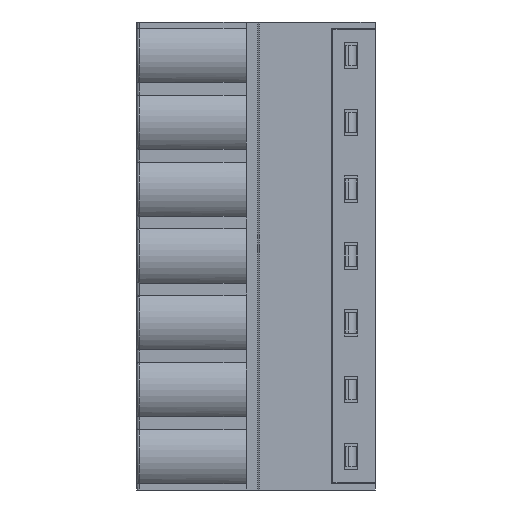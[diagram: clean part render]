
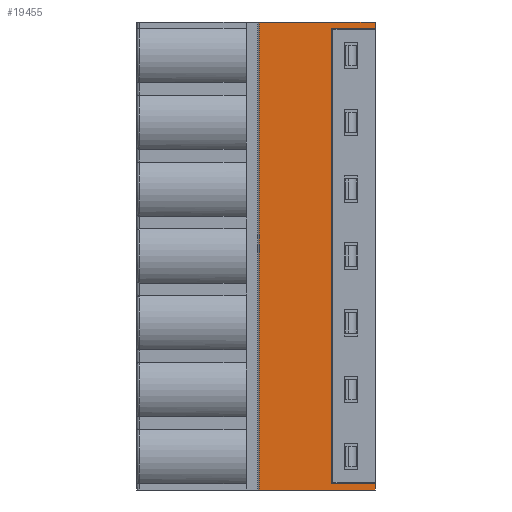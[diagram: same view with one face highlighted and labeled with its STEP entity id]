
A CAD part, left-side view. The second image highlights one B-rep face of the part: STEP entity #19455.
In plain terms, the highlighted planar face has unit normal (-1, 0, 0).
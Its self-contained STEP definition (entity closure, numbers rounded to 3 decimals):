
#79 = CARTESIAN_POINT ( 'NONE',  ( -3.9, 1.933, 0.49 ) ) ;
#174 = CARTESIAN_POINT ( 'NONE',  ( -3.9, 0., 0.49 ) ) ;
#1300 = CARTESIAN_POINT ( 'NONE',  ( -3.9, 3.3, 35.068 ) ) ;
#1428 = ORIENTED_EDGE ( 'NONE', *, *, #29188, .F. ) ;
#1565 = CARTESIAN_POINT ( 'NONE',  ( -3.9, 3.033, 35.069 ) ) ;
#1593 = ORIENTED_EDGE ( 'NONE', *, *, #16277, .F. ) ;
#1790 = EDGE_CURVE ( 'NONE', #28515, #4990, #26860, .T. ) ;
#1985 = CARTESIAN_POINT ( 'NONE',  ( -3.9, 8.8, 35.56 ) ) ;
#2331 = CARTESIAN_POINT ( 'NONE',  ( -3.9, 0.967, 0.49 ) ) ;
#2399 = CARTESIAN_POINT ( 'NONE',  ( -3.9, 0., 35.56 ) ) ;
#2615 = ORIENTED_EDGE ( 'NONE', *, *, #24348, .T. ) ;
#2870 = VECTOR ( 'NONE', #11113, 1000. ) ;
#3301 = CARTESIAN_POINT ( 'NONE',  ( -3.9, 3.3, 0.492 ) ) ;
#3585 = CARTESIAN_POINT ( 'NONE',  ( -3.9, 8.8, 0. ) ) ;
#4087 = LINE ( 'NONE', #8590, #22920 ) ;
#4179 = CARTESIAN_POINT ( 'NONE',  ( -3.9, 0., 35.07 ) ) ;
#4956 = LINE ( 'NONE', #174, #9394 ) ;
#4990 = VERTEX_POINT ( 'NONE', #3585 ) ;
#5104 = VECTOR ( 'NONE', #6483, 1000. ) ;
#5970 = CARTESIAN_POINT ( 'NONE',  ( -3.9, 8.8, 35.56 ) ) ;
#6083 = LINE ( 'NONE', #1300, #15610 ) ;
#6483 = DIRECTION ( 'NONE',  ( 0., 0., -1. ) ) ;
#6509 = CARTESIAN_POINT ( 'NONE',  ( -3.9, 2.9, 0.49 ) ) ;
#6610 = LINE ( 'NONE', #1985, #2870 ) ;
#7576 = LINE ( 'NONE', #19103, #16395 ) ;
#7876 = ORIENTED_EDGE ( 'NONE', *, *, #19275, .T. ) ;
#7894 = PLANE ( 'NONE',  #17761 ) ;
#8083 = VERTEX_POINT ( 'NONE', #8759 ) ;
#8208 = CARTESIAN_POINT ( 'NONE',  ( -3.9, 0., 35.07 ) ) ;
#8338 = B_SPLINE_CURVE_WITH_KNOTS ( 'NONE', 3,
 ( #28465, #23826, #12462, #23533 ),
 .UNSPECIFIED., .F., .F.,
 ( 4, 4 ),
 ( 0., 1. ),
 .UNSPECIFIED. ) ;
#8590 = CARTESIAN_POINT ( 'NONE',  ( -3.9, 8.8, 0. ) ) ;
#8759 = CARTESIAN_POINT ( 'NONE',  ( -3.9, 3.3, 35.068 ) ) ;
#9027 = VERTEX_POINT ( 'NONE', #2399 ) ;
#9359 = EDGE_CURVE ( 'NONE', #17878, #22551, #9968, .T. ) ;
#9394 = VECTOR ( 'NONE', #20972, 1000. ) ;
#9968 = B_SPLINE_CURVE_WITH_KNOTS ( 'NONE', 3,
 ( #6509, #79, #2331, #18183 ),
 .UNSPECIFIED., .F., .F.,
 ( 4, 4 ),
 ( 0., 1. ),
 .UNSPECIFIED. ) ;
#10625 = CARTESIAN_POINT ( 'NONE',  ( -3.9, 0.967, 35.07 ) ) ;
#10935 = EDGE_LOOP ( 'NONE', ( #2615, #11736, #16854, #1428, #1593, #27357, #7876, #11159, #28864, #12379 ) ) ;
#11113 = DIRECTION ( 'NONE',  ( 0., -1., 0. ) ) ;
#11134 = DIRECTION ( 'NONE',  ( 0., -1., 0. ) ) ;
#11159 = ORIENTED_EDGE ( 'NONE', *, *, #21045, .F. ) ;
#11736 = ORIENTED_EDGE ( 'NONE', *, *, #18445, .F. ) ;
#11872 = VERTEX_POINT ( 'NONE', #8208 ) ;
#12379 = ORIENTED_EDGE ( 'NONE', *, *, #1790, .T. ) ;
#12462 = CARTESIAN_POINT ( 'NONE',  ( -3.9, 3.033, 0.491 ) ) ;
#12679 = FACE_OUTER_BOUND ( 'NONE', #10935, .T. ) ;
#12982 = CARTESIAN_POINT ( 'NONE',  ( -3.9, 2.9, 35.07 ) ) ;
#13953 = EDGE_CURVE ( 'NONE', #8083, #19577, #24834, .T. ) ;
#14862 = CARTESIAN_POINT ( 'NONE',  ( -3.9, 0., 0.49 ) ) ;
#15405 = CARTESIAN_POINT ( 'NONE',  ( -3.9, 1.933, 35.07 ) ) ;
#15610 = VECTOR ( 'NONE', #20001, 1000. ) ;
#16277 = EDGE_CURVE ( 'NONE', #8083, #29593, #6083, .T. ) ;
#16395 = VECTOR ( 'NONE', #23877, 1000. ) ;
#16854 = ORIENTED_EDGE ( 'NONE', *, *, #9359, .F. ) ;
#17761 = AXIS2_PLACEMENT_3D ( 'NONE', #24051, #26313, #23468 ) ;
#17860 = CARTESIAN_POINT ( 'NONE',  ( -3.9, 8.8, 35.56 ) ) ;
#17878 = VERTEX_POINT ( 'NONE', #19819 ) ;
#18183 = CARTESIAN_POINT ( 'NONE',  ( -3.9, 0., 0.49 ) ) ;
#18389 = B_SPLINE_CURVE_WITH_KNOTS ( 'NONE', 3,
 ( #26796, #15405, #10625, #4179 ),
 .UNSPECIFIED., .F., .F.,
 ( 4, 4 ),
 ( 0., 1. ),
 .UNSPECIFIED. ) ;
#18445 = EDGE_CURVE ( 'NONE', #22551, #29546, #4956, .T. ) ;
#19103 = CARTESIAN_POINT ( 'NONE',  ( -3.9, 0., 35.56 ) ) ;
#19275 = EDGE_CURVE ( 'NONE', #19577, #11872, #18389, .T. ) ;
#19455 = ADVANCED_FACE ( 'NONE', ( #12679 ), #7894, .T. ) ;
#19577 = VERTEX_POINT ( 'NONE', #12982 ) ;
#19819 = CARTESIAN_POINT ( 'NONE',  ( -3.9, 2.9, 0.49 ) ) ;
#19964 = CARTESIAN_POINT ( 'NONE',  ( -3.9, 3.3, 35.068 ) ) ;
#20001 = DIRECTION ( 'NONE',  ( 0., 0., -1. ) ) ;
#20407 = CARTESIAN_POINT ( 'NONE',  ( -3.9, 2.9, 35.07 ) ) ;
#20519 = CARTESIAN_POINT ( 'NONE',  ( -3.9, 0., 0. ) ) ;
#20972 = DIRECTION ( 'NONE',  ( 0., 0., -1. ) ) ;
#21045 = EDGE_CURVE ( 'NONE', #9027, #11872, #7576, .T. ) ;
#22551 = VERTEX_POINT ( 'NONE', #14862 ) ;
#22920 = VECTOR ( 'NONE', #11134, 1000. ) ;
#23468 = DIRECTION ( 'NONE',  ( 0., 0., 1. ) ) ;
#23533 = CARTESIAN_POINT ( 'NONE',  ( -3.9, 2.9, 0.49 ) ) ;
#23826 = CARTESIAN_POINT ( 'NONE',  ( -3.9, 3.167, 0.492 ) ) ;
#23877 = DIRECTION ( 'NONE',  ( 0., 0., -1. ) ) ;
#24051 = CARTESIAN_POINT ( 'NONE',  ( -3.9, 8.9, 0. ) ) ;
#24348 = EDGE_CURVE ( 'NONE', #4990, #29546, #4087, .T. ) ;
#24834 = B_SPLINE_CURVE_WITH_KNOTS ( 'NONE', 3,
 ( #19964, #29097, #1565, #20407 ),
 .UNSPECIFIED., .F., .F.,
 ( 4, 4 ),
 ( 0., 1. ),
 .UNSPECIFIED. ) ;
#25815 = EDGE_CURVE ( 'NONE', #28515, #9027, #6610, .T. ) ;
#26313 = DIRECTION ( 'NONE',  ( -1., 0., 0. ) ) ;
#26796 = CARTESIAN_POINT ( 'NONE',  ( -3.9, 2.9, 35.07 ) ) ;
#26860 = LINE ( 'NONE', #17860, #5104 ) ;
#27357 = ORIENTED_EDGE ( 'NONE', *, *, #13953, .T. ) ;
#28465 = CARTESIAN_POINT ( 'NONE',  ( -3.9, 3.3, 0.492 ) ) ;
#28515 = VERTEX_POINT ( 'NONE', #5970 ) ;
#28864 = ORIENTED_EDGE ( 'NONE', *, *, #25815, .F. ) ;
#29097 = CARTESIAN_POINT ( 'NONE',  ( -3.9, 3.167, 35.068 ) ) ;
#29188 = EDGE_CURVE ( 'NONE', #29593, #17878, #8338, .T. ) ;
#29546 = VERTEX_POINT ( 'NONE', #20519 ) ;
#29593 = VERTEX_POINT ( 'NONE', #3301 ) ;
